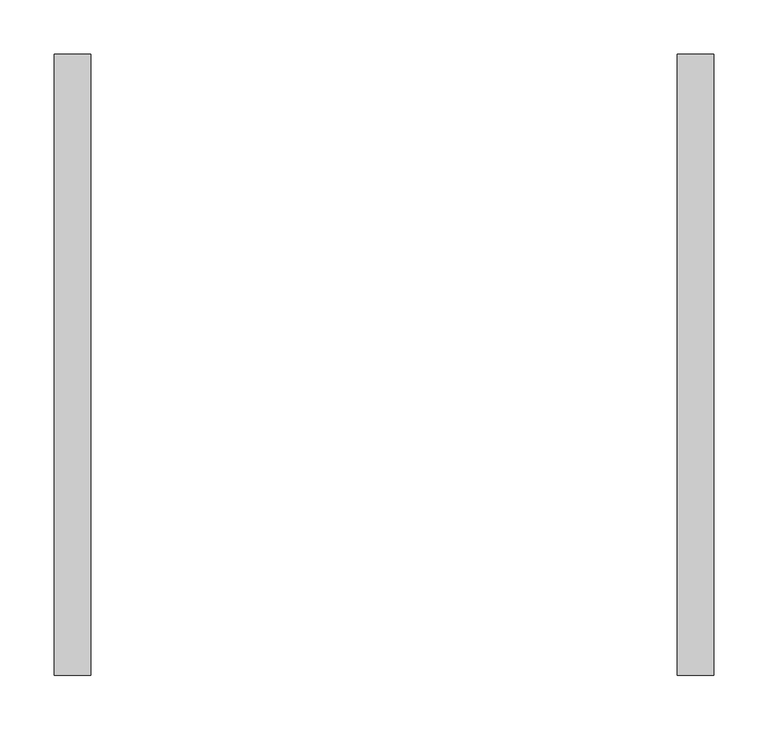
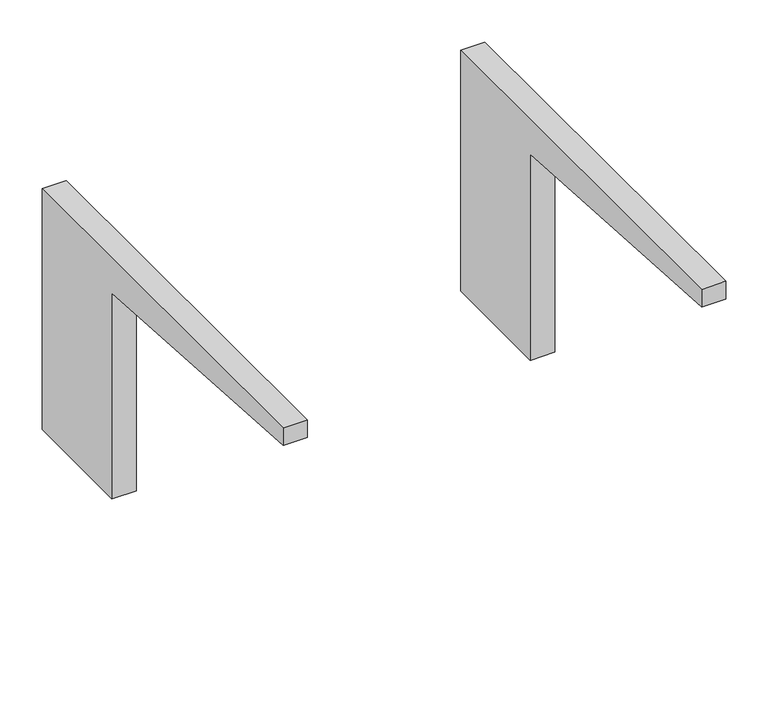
"""IFC4 building model written with IfcOpenShell, lengths in millimetres: furniture geometry, HermanMiller_CoStruc_WorkSurfaceSupportComponentAdaptorReady : 14H x 24D x 24W."""

from ifc_helpers import new_model, si_unit, point, frame, frame_2d, origin, place, context, project, spatial, polyline, circle_curve, trimmed, segment, composite_curve, outline, extrude, source, transform, mapped, element, save


def furniture_224c88e3(model_context):
    return source(origin(), model_context, "Body", "SweptSolid", [
        extrude(outline(composite_curve([segment(polyline([(177.8, 882.65), (177.8, 533.4), (12.7, 533.4), (12.7, 831.85)]), True, "CONTINUOUS"), segment(trimmed(circle_curve(frame_2d((-388.143904, -2317.7524637)), 3175.0073252), [point((12.7, 831.85))], [point((-393.7, 857.25))], True, "CARTESIAN"), True, "CONTINUOUS"), segment(polyline([(-393.7, 857.25), (-393.7, 882.65), (177.8, 882.65)]), True, "CONTINUOUS")], self_intersect=False)), frame((269.875, 0.0, 0.0), z_axis=(1.0, 0.0, 0.0), x_axis=(0.0, 1.0, 0.0)), (0.0, 0.0, 1.0), 33.3375),
        extrude(outline(composite_curve([segment(polyline([(-393.7, 857.25), (-393.7, 882.65), (177.8, 882.65), (177.8, 533.4), (12.7, 533.4), (12.7, 831.85)]), True, "CONTINUOUS"), segment(trimmed(circle_curve(frame_2d((-388.143904, -2317.7524637)), 3175.0073252), [point((12.7, 831.85))], [point((-393.7, 857.25))], True, "CARTESIAN"), True, "CONTINUOUS")], self_intersect=False)), frame((-303.2125, 0.0, 0.0), z_axis=(1.0, 0.0, 0.0), x_axis=(0.0, 1.0, 0.0)), (0.0, 0.0, 1.0), 33.3375),
    ])


if __name__ == "__main__":
    model = new_model("IFC4")
    model_context = context("Model", 3, world=origin())
    ifc_project = project(units=[si_unit("LENGTHUNIT", "METRE", prefix="MILLI")], contexts=[model_context])
    site = spatial("IfcSite", under=ifc_project)
    building = spatial("IfcBuilding", under=site)
    placement = place(None, origin())
    furniture_shape = furniture_224c88e3(model_context)
    element("IfcFurniture", 1, ObjectType="HermanMiller_CoStruc_WorkSurfaceSupportComponentAdaptorReady : 14H x 24D x 24W", at=placement, inside=building, context=model_context, shape_type="MappedRepresentation", body=[
        mapped(furniture_shape, transform((0.0, 0.0, 0.0), x_axis=(1.0, 0.0, 0.0), y_axis=(0.0, 1.0, 0.0), z_axis=(0.0, 0.0, 1.0))),
    ])
    save(model, "model.ifc")
